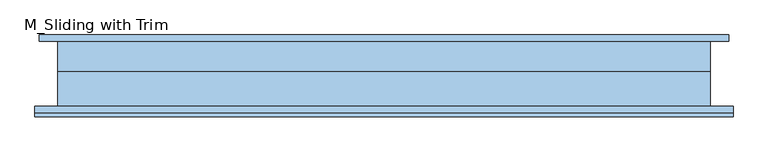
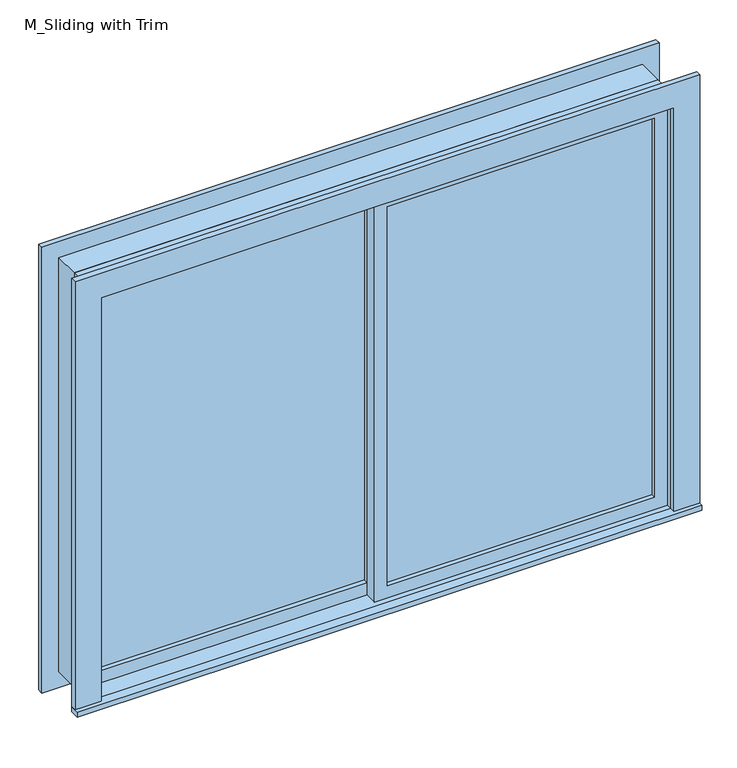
"""IFC4 building model written with IfcOpenShell, lengths in millimetres: window geometry, M_Sliding with Trim : ش 1."""

from ifc_helpers import new_model, si_unit, frame, origin, place, context, project, spatial, polyline, outline, extrude, source, transform, mapped, element, save


def m_sliding_with_trim_450d2075(model_context):
    return source(origin(), model_context, "Body", "SweptSolid", [
        extrude(outline(polyline([(-936.5, -20.675), (-936.5, -7.975), (-22.225, -7.975), (-22.225, -20.675), (-936.5, -20.675)])), frame((0.0, 0.0, 978.5), z_axis=(0.0, 0.0, 1.0), x_axis=(1.0, 0.0, 0.0)), (0.0, 0.0, 1.0), 1373.0),
        extrude(outline(polyline([(2395.95, -980.95), (934.05, -980.95), (934.05, 22.225), (2395.95, 22.225), (2395.95, -980.95)]), holes=[polyline([(2351.5, -936.5), (2351.5, -22.225), (978.5, -22.225), (978.5, -936.5), (2351.5, -936.5)])]), frame((0.0, -36.55, 0.0), z_axis=(0.0, 1.0, 0.0), x_axis=(0.0, 0.0, 1.0)), (0.0, 0.0, 1.0), 44.45),
        extrude(outline(polyline([(-1069.95, -131.7), (-1069.95, -100.0), (1069.95, -100.0), (1069.95, -131.7), (-1069.95, -131.7)])), frame((0.0, 0.0, 915.0), z_axis=(0.0, 0.0, 1.0), x_axis=(1.0, 0.0, 0.0)), (0.0, 0.0, 1.0), 19.05),
        extrude(outline(polyline([(2395.95, -980.95), (2395.95, 980.95), (934.05, 980.95), (934.05, 1069.95), (2484.95, 1069.95), (2484.95, -1069.95), (934.05, -1069.95), (934.05, -980.95), (2395.95, -980.95)])), frame((0.0, -119.0, 0.0), z_axis=(0.0, 1.0, 0.0), x_axis=(0.0, 0.0, 1.0)), (0.0, 0.0, 1.0), 19.0),
        extrude(outline(polyline([(2472.25, 1057.25), (2472.25, -1057.25), (857.75, -1057.25), (857.75, 1057.25), (2472.25, 1057.25)]), holes=[polyline([(2383.25, 968.25), (946.75, 968.25), (946.75, -968.25), (2383.25, -968.25), (2383.25, 968.25)])]), frame((0.0, 100.0, 0.0), z_axis=(0.0, 1.0, 0.0), x_axis=(0.0, 0.0, 1.0)), (0.0, 0.0, 1.0), 19.0),
        extrude(outline(polyline([(936.5, -52.425), (936.5, -65.125), (22.225, -65.125), (22.225, -52.425), (936.5, -52.425)])), frame((0.0, 0.0, 978.5), z_axis=(0.0, 0.0, 1.0), x_axis=(1.0, 0.0, 0.0)), (0.0, 0.0, 1.0), 1373.0),
        extrude(outline(polyline([(2395.95, -22.225), (934.05, -22.225), (934.05, 980.95), (2395.95, 980.95), (2395.95, -22.225)]), holes=[polyline([(2351.5, 22.225), (2351.5, 936.5), (978.5, 936.5), (978.5, 22.225), (2351.5, 22.225)])]), frame((0.0, -81.0, 0.0), z_axis=(0.0, 1.0, 0.0), x_axis=(0.0, 0.0, 1.0)), (0.0, 0.0, 1.0), 44.45),
        extrude(outline(polyline([(2415.0, -1000.0), (915.0, -1000.0), (915.0, 1000.0), (2415.0, 1000.0), (2415.0, -1000.0)]), holes=[polyline([(2383.25, -968.25), (2383.25, 968.25), (946.75, 968.25), (946.75, -968.25), (2383.25, -968.25)])]), frame((0.0, 7.9, 0.0), z_axis=(0.0, 1.0, 0.0), x_axis=(0.0, 0.0, 1.0)), (0.0, 0.0, 1.0), 92.1),
        extrude(outline(polyline([(2415.0, 1000.0), (2415.0, -1000.0), (915.0, -1000.0), (915.0, 1000.0), (2415.0, 1000.0)]), holes=[polyline([(2395.95, 980.95), (934.05, 980.95), (934.05, -980.95), (2395.95, -980.95), (2395.95, 980.95)])]), frame((0.0, -100.0, 0.0), z_axis=(0.0, 1.0, 0.0), x_axis=(0.0, 0.0, 1.0)), (0.0, 0.0, 1.0), 107.9),
    ])


if __name__ == "__main__":
    model = new_model("IFC4")
    model_context = context("Model", 3, world=origin())
    ifc_project = project(units=[si_unit("LENGTHUNIT", "METRE", prefix="MILLI")], contexts=[model_context])
    site = spatial("IfcSite", under=ifc_project)
    building = spatial("IfcBuilding", under=site)
    placement = place(None, origin())
    m_sliding_with_trim_shape = m_sliding_with_trim_450d2075(model_context)
    element("IfcWindow", 1, ObjectType="M_Sliding with Trim : ش 1", at=placement, inside=building, context=model_context, shape_type="MappedRepresentation", body=[
        mapped(m_sliding_with_trim_shape, transform((0.0, 0.0, 0.0), x_axis=(1.0, 0.0, 0.0), y_axis=(0.0, 1.0, 0.0), z_axis=(0.0, 0.0, 1.0))),
    ])
    save(model, "model.ifc")
